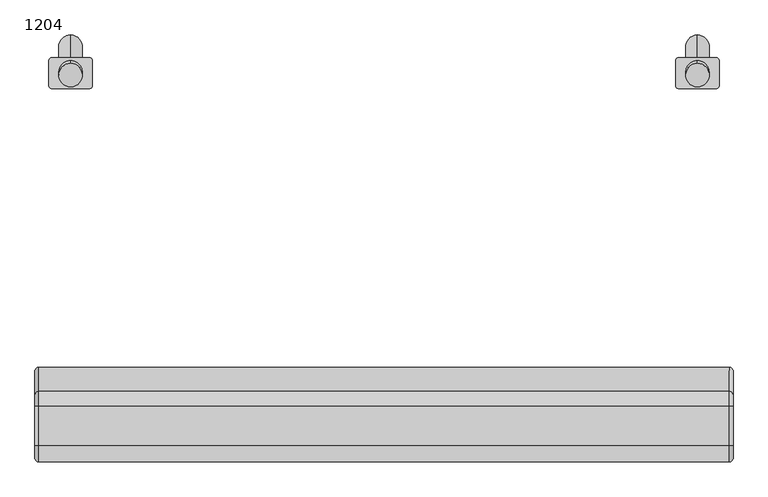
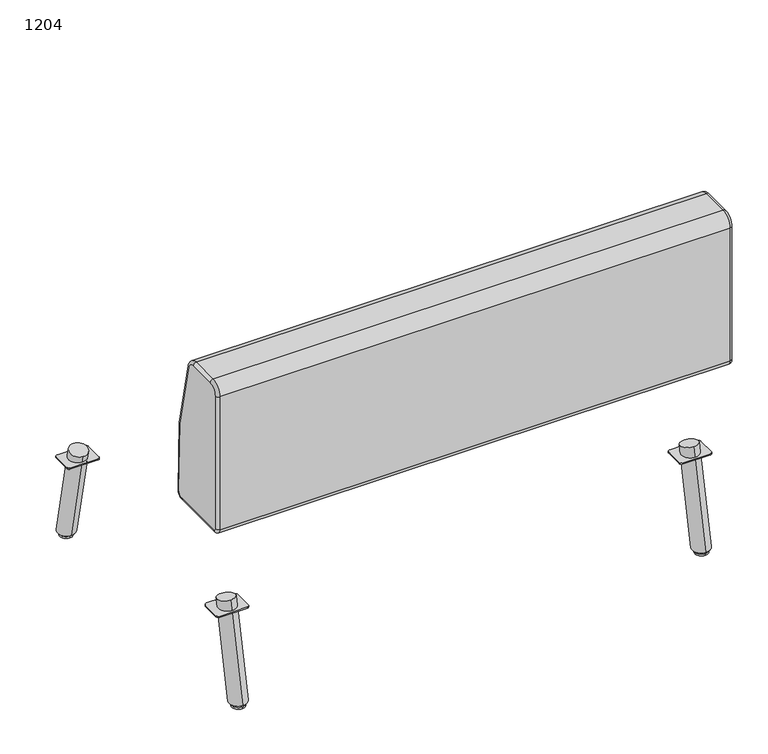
"""IFC4 building model written with IfcOpenShell, lengths in millimetres: furniture geometry, Laguna-Modular-Straight-ERG : 1204."""

from ifc_helpers import new_model, si_unit, point, frame, frame_2d, origin, place, context, project, spatial, polyline, circle_curve, ellipse_curve, trimmed, segment, composite_curve, outline, extrude, source, transform, mapped, element, save
from ifc_brep_helpers import plane_surface, cylinder_surface, revolved_surface, advanced_brep


def furniture_1204_0de081f7(model_context):
    return source(origin(), model_context, "Body", "SolidModel", [
        advanced_brep(
        [(-3602.2921763, -1186.8836653, 224.8295715), (-3602.2921763, -1149.6162417, 216.9081361), (-3602.2921763, -1232.5130913, 10.16), (-3602.2921763, -1193.5619147, 10.16)],
        [
            (0, 1, circle_curve(frame((-3602.2921763, -1168.2499535, 220.8688538), z_axis=(0.0, 0.20791169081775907, 0.9781476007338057), x_axis=(0.0, 0.9781476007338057, -0.20791169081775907)), 19.05)),
            (1, 0, circle_curve(frame((-3602.2921763, -1168.2499535, 220.8688538), z_axis=(0.0, 0.20791169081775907, 0.9781476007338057), x_axis=(0.0, 0.9781476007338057, -0.20791169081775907)), 19.05)),
            (0, 2),
            (2, 3, ellipse_curve(frame((-3602.2921763, -1213.037503, 10.16), z_axis=(0.0, 0.0, 1.0), x_axis=(0.0, 1.0, 0.0)), 19.4755883, 19.05)),
            (3, 1),
            (3, 2, ellipse_curve(frame((-3602.2921763, -1213.037503, 10.16), z_axis=(0.0, 0.0, 1.0), x_axis=(0.0, 1.0, 0.0)), 19.4755883, 19.05)),
        ],
        [
            plane_surface(frame((-3602.2921763, -1168.2499535, 220.8688538), z_axis=(0.0, 0.20791169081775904, 0.9781476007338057), x_axis=(1.0, 0.0, 0.0))),
            cylinder_surface(frame((-3602.2921763, -1168.2499535, 220.8688538), z_axis=(0.0, 0.20791169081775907, 0.9781476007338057), x_axis=(0.0, 0.9781476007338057, -0.20791169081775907)), 19.05),
            plane_surface(frame((-3633.679084, -1280.9022773, 10.16), z_axis=(0.0, 0.0, -1.0), x_axis=(1.0, 0.0, 0.0))),
        ],
        [
            (0, [[1, 2]]),
            (1, [[-1, 3, 4, 5]]),
            (1, [[-2, -5, 6, -3]]),
            (2, [[-4, -6]]),
        ],
    ),
        advanced_brep(
        [(-4605.5924306, -1186.8836653, 224.8295715), (-4605.5924306, -1149.6162417, 216.9081361), (-4605.5924306, -1232.5130913, 10.16), (-4605.5924306, -1193.5619147, 10.16)],
        [
            (0, 1, circle_curve(frame((-4605.5924306, -1168.2499535, 220.8688538), z_axis=(0.0, 0.20791169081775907, 0.9781476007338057), x_axis=(0.0, 0.9781476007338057, -0.20791169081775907)), 19.05)),
            (1, 0, circle_curve(frame((-4605.5924306, -1168.2499535, 220.8688538), z_axis=(0.0, 0.20791169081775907, 0.9781476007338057), x_axis=(0.0, 0.9781476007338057, -0.20791169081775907)), 19.05)),
            (0, 2),
            (2, 3, ellipse_curve(frame((-4605.5924306, -1213.037503, 10.16), z_axis=(0.0, 0.0, 1.0), x_axis=(0.0, 1.0, 0.0)), 19.4755883, 19.05)),
            (3, 1),
            (3, 2, ellipse_curve(frame((-4605.5924306, -1213.037503, 10.16), z_axis=(0.0, 0.0, 1.0), x_axis=(0.0, 1.0, 0.0)), 19.4755883, 19.05)),
        ],
        [
            plane_surface(frame((-4605.5924306, -1168.2499535, 220.8688538), z_axis=(0.0, 0.20791169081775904, 0.9781476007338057), x_axis=(1.0, 0.0, 0.0))),
            cylinder_surface(frame((-4605.5924306, -1168.2499535, 220.8688538), z_axis=(0.0, 0.20791169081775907, 0.9781476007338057), x_axis=(0.0, 0.9781476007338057, -0.20791169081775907)), 19.05),
            plane_surface(frame((-4636.9793383, -1280.9022773, 10.16), z_axis=(0.0, 0.0, -1.0), x_axis=(1.0, 0.0, 0.0))),
        ],
        [
            (0, [[1, 2]]),
            (1, [[-1, 3, 4, 5]]),
            (1, [[-2, -5, 6, -3]]),
            (2, [[-4, -6]]),
        ],
    ),
        advanced_brep(
        [(-3602.2921763, -595.628035, 224.8295715), (-3602.2921763, -632.8954586, 216.9081361), (-3602.2921763, -588.9497857, 10.16), (-3602.2921763, -549.998609, 10.16)],
        [
            (0, 1, circle_curve(frame((-3602.2921763, -614.2617468, 220.8688538), z_axis=(0.0, -0.20791169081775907, 0.9781476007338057), x_axis=(0.0, -0.9781476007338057, -0.20791169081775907)), 19.05)),
            (1, 0, circle_curve(frame((-3602.2921763, -614.2617468, 220.8688538), z_axis=(0.0, -0.20791169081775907, 0.9781476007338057), x_axis=(0.0, -0.9781476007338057, -0.20791169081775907)), 19.05)),
            (1, 2),
            (2, 3, ellipse_curve(frame((-3602.2921763, -569.4741973, 10.16), z_axis=(0.0, 0.0, 1.0), x_axis=(0.0, -1.0, 0.0)), 19.4755883, 19.05)),
            (3, 0),
            (3, 2, ellipse_curve(frame((-3602.2921763, -569.4741973, 10.16), z_axis=(0.0, 0.0, 1.0), x_axis=(0.0, -1.0, 0.0)), 19.4755883, 19.05)),
        ],
        [
            plane_surface(frame((-3602.2921763, -614.2617468, 220.8688538), z_axis=(0.0, -0.20791169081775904, 0.9781476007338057), x_axis=(1.0, 0.0, 0.0))),
            cylinder_surface(frame((-3602.2921763, -614.2617468, 220.8688538), z_axis=(0.0, -0.20791169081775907, 0.9781476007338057), x_axis=(0.0, -0.9781476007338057, -0.20791169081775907)), 19.05),
            plane_surface(frame((-3633.679084, -501.6094231, 10.16), z_axis=(0.0, 0.0, -1.0), x_axis=(1.0, 0.0, 0.0))),
        ],
        [
            (0, [[1, 2]]),
            (1, [[3, 4, 5, -2]]),
            (1, [[-5, 6, -3, -1]]),
            (2, [[-6, -4]]),
        ],
    ),
        advanced_brep(
        [(-4605.5924306, -595.628035, 224.8295715), (-4605.5924306, -632.8954586, 216.9081361), (-4605.5924306, -588.9497857, 10.16), (-4605.5924306, -549.998609, 10.16)],
        [
            (0, 1, circle_curve(frame((-4605.5924306, -614.2617468, 220.8688538), z_axis=(0.0, -0.20791169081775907, 0.9781476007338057), x_axis=(0.0, -0.9781476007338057, -0.20791169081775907)), 19.05)),
            (1, 0, circle_curve(frame((-4605.5924306, -614.2617468, 220.8688538), z_axis=(0.0, -0.20791169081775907, 0.9781476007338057), x_axis=(0.0, -0.9781476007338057, -0.20791169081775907)), 19.05)),
            (1, 2),
            (2, 3, ellipse_curve(frame((-4605.5924306, -569.4741973, 10.16), z_axis=(0.0, 0.0, 1.0), x_axis=(0.0, -1.0, 0.0)), 19.4755883, 19.05)),
            (3, 0),
            (3, 2, ellipse_curve(frame((-4605.5924306, -569.4741973, 10.16), z_axis=(0.0, 0.0, 1.0), x_axis=(0.0, -1.0, 0.0)), 19.4755883, 19.05)),
        ],
        [
            plane_surface(frame((-4605.5924306, -614.2617468, 220.8688538), z_axis=(0.0, -0.20791169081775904, 0.9781476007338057), x_axis=(1.0, 0.0, 0.0))),
            cylinder_surface(frame((-4605.5924306, -614.2617468, 220.8688538), z_axis=(0.0, -0.20791169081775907, 0.9781476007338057), x_axis=(0.0, -0.9781476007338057, -0.20791169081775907)), 19.05),
            plane_surface(frame((-4636.9793383, -501.6094231, 10.16), z_axis=(0.0, 0.0, -1.0), x_axis=(1.0, 0.0, 0.0))),
        ],
        [
            (0, [[1, 2]]),
            (1, [[3, 4, 5, -2]]),
            (1, [[-5, 6, -3, -1]]),
            (2, [[-6, -4]]),
        ],
    ),
        extrude(outline(composite_curve([segment(trimmed(circle_curve(frame_2d((-4575.7474306, -591.5358502)), 5.08), [point((-4575.7474306, -586.4558502))], [point((-4570.6674306, -591.5358502))], False, "CARTESIAN"), True, "CONTINUOUS"), segment(polyline([(-4570.6674306, -591.5358502), (-4570.6674306, -630.9058502)]), True, "CONTINUOUS"), segment(trimmed(circle_curve(frame_2d((-4575.7474306, -630.9058502)), 5.08), [point((-4570.6674306, -630.9058502))], [point((-4575.7474306, -635.9858502))], False, "CARTESIAN"), True, "CONTINUOUS"), segment(polyline([(-4575.7474306, -635.9858502), (-4635.4374306, -635.9858502)]), True, "CONTINUOUS"), segment(trimmed(circle_curve(frame_2d((-4635.4374306, -630.9058502)), 5.08), [point((-4635.4374306, -635.9858502))], [point((-4640.5174306, -630.9058502))], False, "CARTESIAN"), True, "CONTINUOUS"), segment(polyline([(-4640.5174306, -630.9058502), (-4640.5174306, -591.5358502)]), True, "CONTINUOUS"), segment(trimmed(circle_curve(frame_2d((-4635.4374306, -591.5358502)), 5.08), [point((-4640.5174306, -591.5358502))], [point((-4635.4374306, -586.4558502))], False, "CARTESIAN"), True, "CONTINUOUS"), segment(polyline([(-4635.4374306, -586.4558502), (-4575.7474306, -586.4558502)]), True, "CONTINUOUS")], self_intersect=False)), frame((0.0, 0.0, 200.66), z_axis=(0.0, 0.0, 1.0), x_axis=(1.0, 0.0, 0.0)), (0.0, 0.0, 1.0), 2.54),
        extrude(outline(composite_curve([segment(polyline([(-4575.7474306, -1196.0558502), (-4635.4374306, -1196.0558502)]), True, "CONTINUOUS"), segment(trimmed(circle_curve(frame_2d((-4635.4374306, -1190.9758502)), 5.08), [point((-4635.4374306, -1196.0558502))], [point((-4640.5174306, -1190.9758502))], False, "CARTESIAN"), True, "CONTINUOUS"), segment(polyline([(-4640.5174306, -1190.9758502), (-4640.5174306, -1151.6058502)]), True, "CONTINUOUS"), segment(trimmed(circle_curve(frame_2d((-4635.4374306, -1151.6058502)), 5.08), [point((-4640.5174306, -1151.6058502))], [point((-4635.4374306, -1146.5258502))], False, "CARTESIAN"), True, "CONTINUOUS"), segment(polyline([(-4635.4374306, -1146.5258502), (-4575.7474306, -1146.5258502)]), True, "CONTINUOUS"), segment(trimmed(circle_curve(frame_2d((-4575.7474306, -1151.6058502)), 5.08), [point((-4575.7474306, -1146.5258502))], [point((-4570.6674306, -1151.6058502))], False, "CARTESIAN"), True, "CONTINUOUS"), segment(polyline([(-4570.6674306, -1151.6058502), (-4570.6674306, -1190.9758502)]), True, "CONTINUOUS"), segment(trimmed(circle_curve(frame_2d((-4575.7474306, -1190.9758502)), 5.08), [point((-4570.6674306, -1190.9758502))], [point((-4575.7474306, -1196.0558502))], False, "CARTESIAN"), True, "CONTINUOUS")], self_intersect=False)), frame((0.0, 0.0, 200.66), z_axis=(0.0, 0.0, 1.0), x_axis=(1.0, 0.0, 0.0)), (0.0, 0.0, 1.0), 2.54),
        extrude(outline(composite_curve([segment(polyline([(-3632.136922, -586.4558502), (-3572.446922, -586.4558502)]), True, "CONTINUOUS"), segment(trimmed(circle_curve(frame_2d((-3572.446922, -591.5358502)), 5.08), [point((-3572.446922, -586.4558502))], [point((-3567.366922, -591.5358502))], False, "CARTESIAN"), True, "CONTINUOUS"), segment(polyline([(-3567.366922, -591.5358502), (-3567.366922, -630.9058502)]), True, "CONTINUOUS"), segment(trimmed(circle_curve(frame_2d((-3572.446922, -630.9058502)), 5.08), [point((-3567.366922, -630.9058502))], [point((-3572.446922, -635.9858502))], False, "CARTESIAN"), True, "CONTINUOUS"), segment(polyline([(-3572.446922, -635.9858502), (-3632.136922, -635.9858502)]), True, "CONTINUOUS"), segment(trimmed(circle_curve(frame_2d((-3632.136922, -630.9058502)), 5.08), [point((-3632.136922, -635.9858502))], [point((-3637.216922, -630.9058502))], False, "CARTESIAN"), True, "CONTINUOUS"), segment(polyline([(-3637.216922, -630.9058502), (-3637.216922, -591.5358502)]), True, "CONTINUOUS"), segment(trimmed(circle_curve(frame_2d((-3632.136922, -591.5358502)), 5.08), [point((-3637.216922, -591.5358502))], [point((-3632.136922, -586.4558502))], False, "CARTESIAN"), True, "CONTINUOUS")], self_intersect=False)), frame((0.0, 0.0, 200.66), z_axis=(0.0, 0.0, 1.0), x_axis=(1.0, 0.0, 0.0)), (0.0, 0.0, 1.0), 2.54),
        extrude(outline(composite_curve([segment(trimmed(circle_curve(frame_2d((-3632.136922, -1190.9758502)), 5.08), [point((-3632.136922, -1196.0558502))], [point((-3637.216922, -1190.9758502))], False, "CARTESIAN"), True, "CONTINUOUS"), segment(polyline([(-3637.216922, -1190.9758502), (-3637.216922, -1151.6058502)]), True, "CONTINUOUS"), segment(trimmed(circle_curve(frame_2d((-3632.136922, -1151.6058502)), 5.08), [point((-3637.216922, -1151.6058502))], [point((-3632.136922, -1146.5258502))], False, "CARTESIAN"), True, "CONTINUOUS"), segment(polyline([(-3632.136922, -1146.5258502), (-3572.446922, -1146.5258502)]), True, "CONTINUOUS"), segment(trimmed(circle_curve(frame_2d((-3572.446922, -1151.6058502)), 5.08), [point((-3572.446922, -1146.5258502))], [point((-3567.366922, -1151.6058502))], False, "CARTESIAN"), True, "CONTINUOUS"), segment(polyline([(-3567.366922, -1151.6058502), (-3567.366922, -1190.9758502)]), True, "CONTINUOUS"), segment(trimmed(circle_curve(frame_2d((-3572.446922, -1190.9758502)), 5.08), [point((-3567.366922, -1190.9758502))], [point((-3572.446922, -1196.0558502))], False, "CARTESIAN"), True, "CONTINUOUS"), segment(polyline([(-3572.446922, -1196.0558502), (-3632.136922, -1196.0558502)]), True, "CONTINUOUS")], self_intersect=False)), frame((0.0, 0.0, 200.66), z_axis=(0.0, 0.0, 1.0), x_axis=(1.0, 0.0, 0.0)), (0.0, 0.0, 1.0), 2.54),
        advanced_brep(
        [(-3602.2921763, -1218.5428448, 10.16), (-3602.2921763, -1214.2997967, 10.16), (-3602.2921763, -1210.0567485, 10.16), (-3602.2921763, -1214.2997967, 0.0), (-3602.2921763, -1228.3781501, 0.0), (-3602.2921763, -1200.2214432, 0.0), (-3602.2921763, -1228.3781501, 3.9615026), (-3602.2921763, -1200.2214432, 3.9615026), (-3602.2921763, -1218.5428448, 3.9615026), (-3602.2921763, -1210.0567485, 3.9615026)],
        [
            (0, 1),
            (1, 2),
            (2, 0, circle_curve(frame((-3602.2921763, -1214.2997967, 10.16), z_axis=(0.0, 0.0, 1.0), x_axis=(0.0, 1.0, 0.0)), 4.2430482)),
            (0, 2, circle_curve(frame((-3602.2921763, -1214.2997967, 10.16), z_axis=(0.0, 0.0, 1.0), x_axis=(0.0, 1.0, 0.0)), 4.2430482)),
            (3, 4),
            (4, 5, circle_curve(frame((-3602.2921763, -1214.2997967, 0.0), z_axis=(0.0, 0.0, -1.0), x_axis=(0.0, 1.0, 0.0)), 14.0783534)),
            (5, 3),
            (5, 4, circle_curve(frame((-3602.2921763, -1214.2997967, 0.0), z_axis=(0.0, 0.0, -1.0), x_axis=(0.0, 1.0, 0.0)), 14.0783534)),
            (4, 6),
            (6, 7, circle_curve(frame((-3602.2921763, -1214.2997967, 3.9615026), z_axis=(0.0, 0.0, -1.0), x_axis=(0.0, 1.0, 0.0)), 14.0783534)),
            (7, 5),
            (7, 6, circle_curve(frame((-3602.2921763, -1214.2997967, 3.9615026), z_axis=(0.0, 0.0, -1.0), x_axis=(0.0, 1.0, 0.0)), 14.0783534)),
            (6, 8),
            (8, 9, circle_curve(frame((-3602.2921763, -1214.2997967, 3.9615026), z_axis=(0.0, 0.0, -1.0), x_axis=(0.0, 1.0, 0.0)), 4.2430482)),
            (9, 7),
            (9, 8, circle_curve(frame((-3602.2921763, -1214.2997967, 3.9615026), z_axis=(0.0, 0.0, -1.0), x_axis=(0.0, 1.0, 0.0)), 4.2430482)),
            (8, 0),
            (2, 9),
        ],
        [
            plane_surface(frame((-3602.2921763, -1214.2997967, 10.16), z_axis=(0.0, 0.0, 1.0), x_axis=(0.0, 1.0, 0.0))),
            plane_surface(frame((-3602.2921763, -1214.2997967, 0.0), z_axis=(0.0, 0.0, -1.0), x_axis=(0.0, 1.0, 0.0))),
            cylinder_surface(frame((-3602.2921763, -1214.2997967, 10.16), z_axis=(0.0, 0.0, -1.0), x_axis=(0.0, 1.0, 0.0)), 14.0783534),
            plane_surface(frame((-3602.2921763, -1214.2997967, 3.9615026), z_axis=(0.0, 0.0, 1.0), x_axis=(0.0, 1.0, 0.0))),
            cylinder_surface(frame((-3602.2921763, -1214.2997967, 10.16), z_axis=(0.0, 0.0, -1.0), x_axis=(0.0, 1.0, 0.0)), 4.2430482),
        ],
        [
            (0, [[1, 2, 3]]),
            (0, [[-2, -1, 4]]),
            (1, [[5, 6, 7]]),
            (1, [[-7, 8, -5]]),
            (2, [[9, 10, 11, -6]]),
            (2, [[-11, 12, -9, -8]]),
            (3, [[13, 14, 15, -10]]),
            (3, [[-15, 16, -13, -12]]),
            (4, [[17, -3, 18, -14]]),
            (4, [[-18, -4, -17, -16]]),
        ],
    ),
        advanced_brep(
        [(-4605.5924306, -1218.5428448, 10.16), (-4605.5924306, -1214.2997967, 10.16), (-4605.5924306, -1210.0567485, 10.16), (-4605.5924306, -1214.2997967, 0.0), (-4605.5924306, -1228.3781501, 0.0), (-4605.5924306, -1200.2214432, 0.0), (-4605.5924306, -1228.3781501, 3.9615026), (-4605.5924306, -1200.2214432, 3.9615026), (-4605.5924306, -1218.5428448, 3.9615026), (-4605.5924306, -1210.0567485, 3.9615026)],
        [
            (0, 1),
            (1, 2),
            (2, 0, circle_curve(frame((-4605.5924306, -1214.2997967, 10.16), z_axis=(0.0, 0.0, 1.0), x_axis=(0.0, 1.0, 0.0)), 4.2430482)),
            (0, 2, circle_curve(frame((-4605.5924306, -1214.2997967, 10.16), z_axis=(0.0, 0.0, 1.0), x_axis=(0.0, 1.0, 0.0)), 4.2430482)),
            (3, 4),
            (4, 5, circle_curve(frame((-4605.5924306, -1214.2997967, 0.0), z_axis=(0.0, 0.0, -1.0), x_axis=(0.0, 1.0, 0.0)), 14.0783534)),
            (5, 3),
            (5, 4, circle_curve(frame((-4605.5924306, -1214.2997967, 0.0), z_axis=(0.0, 0.0, -1.0), x_axis=(0.0, 1.0, 0.0)), 14.0783534)),
            (4, 6),
            (6, 7, circle_curve(frame((-4605.5924306, -1214.2997967, 3.9615026), z_axis=(0.0, 0.0, -1.0), x_axis=(0.0, 1.0, 0.0)), 14.0783534)),
            (7, 5),
            (7, 6, circle_curve(frame((-4605.5924306, -1214.2997967, 3.9615026), z_axis=(0.0, 0.0, -1.0), x_axis=(0.0, 1.0, 0.0)), 14.0783534)),
            (6, 8),
            (8, 9, circle_curve(frame((-4605.5924306, -1214.2997967, 3.9615026), z_axis=(0.0, 0.0, -1.0), x_axis=(0.0, 1.0, 0.0)), 4.2430482)),
            (9, 7),
            (9, 8, circle_curve(frame((-4605.5924306, -1214.2997967, 3.9615026), z_axis=(0.0, 0.0, -1.0), x_axis=(0.0, 1.0, 0.0)), 4.2430482)),
            (8, 0),
            (2, 9),
        ],
        [
            plane_surface(frame((-4605.5924306, -1214.2997967, 10.16), z_axis=(0.0, 0.0, 1.0), x_axis=(0.0, 1.0, 0.0))),
            plane_surface(frame((-4605.5924306, -1214.2997967, 0.0), z_axis=(0.0, 0.0, -1.0), x_axis=(0.0, 1.0, 0.0))),
            cylinder_surface(frame((-4605.5924306, -1214.2997967, 10.16), z_axis=(0.0, 0.0, -1.0), x_axis=(0.0, 1.0, 0.0)), 14.0783534),
            plane_surface(frame((-4605.5924306, -1214.2997967, 3.9615026), z_axis=(0.0, 0.0, 1.0), x_axis=(0.0, 1.0, 0.0))),
            cylinder_surface(frame((-4605.5924306, -1214.2997967, 10.16), z_axis=(0.0, 0.0, -1.0), x_axis=(0.0, 1.0, 0.0)), 4.2430482),
        ],
        [
            (0, [[1, 2, 3]]),
            (0, [[-2, -1, 4]]),
            (1, [[5, 6, 7]]),
            (1, [[-7, 8, -5]]),
            (2, [[9, 10, 11, -6]]),
            (2, [[-11, 12, -9, -8]]),
            (3, [[13, 14, 15, -10]]),
            (3, [[-15, 16, -13, -12]]),
            (4, [[17, -3, 18, -14]]),
            (4, [[-18, -4, -17, -16]]),
        ],
    ),
        advanced_brep(
        [(-3602.2921763, -568.2119037, 10.16), (-3602.2921763, -563.9688555, 10.16), (-3602.2921763, -572.4549518, 10.16), (-3602.2921763, -554.1335502, 0.0), (-3602.2921763, -568.2119037, 0.0), (-3602.2921763, -582.2902571, 0.0), (-3602.2921763, -554.1335502, 3.9615026), (-3602.2921763, -582.2902571, 3.9615026), (-3602.2921763, -563.9688555, 3.9615026), (-3602.2921763, -572.4549518, 3.9615026)],
        [
            (0, 1),
            (1, 2, circle_curve(frame((-3602.2921763, -568.2119037, 10.16), z_axis=(0.0, 0.0, 1.0), x_axis=(0.0, -1.0, 0.0)), 4.2430482)),
            (2, 0),
            (2, 1, circle_curve(frame((-3602.2921763, -568.2119037, 10.16), z_axis=(0.0, 0.0, 1.0), x_axis=(0.0, -1.0, 0.0)), 4.2430482)),
            (3, 4),
            (4, 5),
            (5, 3, circle_curve(frame((-3602.2921763, -568.2119037, 0.0), z_axis=(0.0, 0.0, -1.0), x_axis=(0.0, -1.0, 0.0)), 14.0783534)),
            (3, 5, circle_curve(frame((-3602.2921763, -568.2119037, 0.0), z_axis=(0.0, 0.0, -1.0), x_axis=(0.0, -1.0, 0.0)), 14.0783534)),
            (6, 3),
            (5, 7),
            (7, 6, circle_curve(frame((-3602.2921763, -568.2119037, 3.9615026), z_axis=(0.0, 0.0, -1.0), x_axis=(0.0, -1.0, 0.0)), 14.0783534)),
            (6, 7, circle_curve(frame((-3602.2921763, -568.2119037, 3.9615026), z_axis=(0.0, 0.0, -1.0), x_axis=(0.0, -1.0, 0.0)), 14.0783534)),
            (8, 6),
            (7, 9),
            (9, 8, circle_curve(frame((-3602.2921763, -568.2119037, 3.9615026), z_axis=(0.0, 0.0, -1.0), x_axis=(0.0, -1.0, 0.0)), 4.2430482)),
            (8, 9, circle_curve(frame((-3602.2921763, -568.2119037, 3.9615026), z_axis=(0.0, 0.0, -1.0), x_axis=(0.0, -1.0, 0.0)), 4.2430482)),
            (1, 8),
            (9, 2),
        ],
        [
            plane_surface(frame((-3602.2921763, -568.2119037, 10.16), z_axis=(0.0, 0.0, 1.0), x_axis=(0.0, -1.0, 0.0))),
            plane_surface(frame((-3602.2921763, -568.2119037, 0.0), z_axis=(0.0, 0.0, -1.0), x_axis=(0.0, -1.0, 0.0))),
            cylinder_surface(frame((-3602.2921763, -568.2119037, 10.16), z_axis=(0.0, 0.0, 1.0), x_axis=(0.0, -1.0, 0.0)), 14.0783534),
            plane_surface(frame((-3602.2921763, -568.2119037, 3.9615026), z_axis=(0.0, 0.0, 1.0), x_axis=(0.0, -1.0, 0.0))),
            cylinder_surface(frame((-3602.2921763, -568.2119037, 10.16), z_axis=(0.0, 0.0, 1.0), x_axis=(0.0, -1.0, 0.0)), 4.2430482),
        ],
        [
            (0, [[1, 2, 3]]),
            (0, [[-3, 4, -1]]),
            (1, [[5, 6, 7]]),
            (1, [[-6, -5, 8]]),
            (2, [[9, -7, 10, 11]]),
            (2, [[-10, -8, -9, 12]]),
            (3, [[13, -11, 14, 15]]),
            (3, [[-14, -12, -13, 16]]),
            (4, [[17, -15, 18, -2]]),
            (4, [[-18, -16, -17, -4]]),
        ],
    ),
        advanced_brep(
        [(-4605.5924306, -568.2119037, 10.16), (-4605.5924306, -563.9688555, 10.16), (-4605.5924306, -572.4549518, 10.16), (-4605.5924306, -554.1335502, 0.0), (-4605.5924306, -568.2119037, 0.0), (-4605.5924306, -582.2902571, 0.0), (-4605.5924306, -554.1335502, 3.9615026), (-4605.5924306, -582.2902571, 3.9615026), (-4605.5924306, -563.9688555, 3.9615026), (-4605.5924306, -572.4549518, 3.9615026)],
        [
            (0, 1),
            (1, 2, circle_curve(frame((-4605.5924306, -568.2119037, 10.16), z_axis=(0.0, 0.0, 1.0), x_axis=(0.0, -1.0, 0.0)), 4.2430482)),
            (2, 0),
            (2, 1, circle_curve(frame((-4605.5924306, -568.2119037, 10.16), z_axis=(0.0, 0.0, 1.0), x_axis=(0.0, -1.0, 0.0)), 4.2430482)),
            (3, 4),
            (4, 5),
            (5, 3, circle_curve(frame((-4605.5924306, -568.2119037, 0.0), z_axis=(0.0, 0.0, -1.0), x_axis=(0.0, -1.0, 0.0)), 14.0783534)),
            (3, 5, circle_curve(frame((-4605.5924306, -568.2119037, 0.0), z_axis=(0.0, 0.0, -1.0), x_axis=(0.0, -1.0, 0.0)), 14.0783534)),
            (6, 3),
            (5, 7),
            (7, 6, circle_curve(frame((-4605.5924306, -568.2119037, 3.9615026), z_axis=(0.0, 0.0, -1.0), x_axis=(0.0, -1.0, 0.0)), 14.0783534)),
            (6, 7, circle_curve(frame((-4605.5924306, -568.2119037, 3.9615026), z_axis=(0.0, 0.0, -1.0), x_axis=(0.0, -1.0, 0.0)), 14.0783534)),
            (8, 6),
            (7, 9),
            (9, 8, circle_curve(frame((-4605.5924306, -568.2119037, 3.9615026), z_axis=(0.0, 0.0, -1.0), x_axis=(0.0, -1.0, 0.0)), 4.2430482)),
            (8, 9, circle_curve(frame((-4605.5924306, -568.2119037, 3.9615026), z_axis=(0.0, 0.0, -1.0), x_axis=(0.0, -1.0, 0.0)), 4.2430482)),
            (1, 8),
            (9, 2),
        ],
        [
            plane_surface(frame((-4605.5924306, -568.2119037, 10.16), z_axis=(0.0, 0.0, 1.0), x_axis=(0.0, -1.0, 0.0))),
            plane_surface(frame((-4605.5924306, -568.2119037, 0.0), z_axis=(0.0, 0.0, -1.0), x_axis=(0.0, -1.0, 0.0))),
            cylinder_surface(frame((-4605.5924306, -568.2119037, 10.16), z_axis=(0.0, 0.0, 1.0), x_axis=(0.0, -1.0, 0.0)), 14.0783534),
            plane_surface(frame((-4605.5924306, -568.2119037, 3.9615026), z_axis=(0.0, 0.0, 1.0), x_axis=(0.0, -1.0, 0.0))),
            cylinder_surface(frame((-4605.5924306, -568.2119037, 10.16), z_axis=(0.0, 0.0, 1.0), x_axis=(0.0, -1.0, 0.0)), 4.2430482),
        ],
        [
            (0, [[1, 2, 3]]),
            (0, [[-3, 4, -1]]),
            (1, [[5, 6, 7]]),
            (1, [[-6, -5, 8]]),
            (2, [[9, -7, 10, 11]]),
            (2, [[-10, -8, -9, 12]]),
            (3, [[13, -11, 14, 15]]),
            (3, [[-14, -12, -13, 16]]),
            (4, [[17, -15, 18, -2]]),
            (4, [[-18, -16, -17, -4]]),
        ],
    ),
        advanced_brep(
        [(-3545.1421763, -1221.4558502, 425.45), (-3545.1421763, -1227.8058502, 431.8), (-3551.4921763, -1234.1558502, 431.8), (-3551.4921763, -1221.4558502, 419.1), (-3545.1421763, -1227.8058502, 736.6), (-3551.4921763, -1234.1558502, 736.6), (-3545.1421763, -1208.7558502, 755.65), (-3551.4921763, -1208.7558502, 762.0), (-3545.1421763, -1145.484373, 755.65), (-3551.4921763, -1145.484373, 762.0), (-3545.1421763, -1127.3528197, 742.4437381), (-3551.4921763, -1121.3089686, 744.3916508), (-3545.1421763, -1088.8035624, 436.3225994), (-3551.4921763, -1082.4654689, 435.9339217), (-3545.1421763, -1100.3633388, 425.45), (-3551.4921763, -1100.3633388, 419.1), (-4656.3921763, -1100.3633388, 419.1), (-4656.3921763, -1082.4654689, 435.9339217), (-4656.3921763, -1221.4558502, 419.1), (-4656.3921763, -1234.1558502, 431.8), (-4656.3921763, -1234.1558502, 736.6), (-4656.3921763, -1208.7558502, 762.0), (-4656.3921763, -1145.484373, 762.0), (-4656.3921763, -1121.3089686, 744.3916508), (-4662.7421763, -1208.7558502, 755.65), (-4662.7421763, -1227.8058502, 736.6), (-4662.7421763, -1145.484373, 755.65), (-4662.7421763, -1127.3528197, 742.4437381), (-4662.7421763, -1088.8035624, 436.3225994), (-4662.7421763, -1100.3633388, 425.45), (-4662.7421763, -1221.4558502, 425.45), (-4662.7421763, -1227.8058502, 431.8)],
        [
            (0, 1, circle_curve(frame((-3545.1421763, -1221.4558502, 431.8), z_axis=(-1.0, 0.0, 0.0), x_axis=(0.0, 0.0, -1.0)), 6.35)),
            (1, 2, circle_curve(frame((-3551.4921763, -1227.8058502, 431.8), z_axis=(0.0, 0.0, -1.0), x_axis=(0.0, 1.0, 0.0)), 6.35)),
            (2, 3, circle_curve(frame((-3551.4921763, -1221.4558502, 431.8), z_axis=(1.0, 0.0, 0.0), x_axis=(0.0, 0.0, -1.0)), 12.7)),
            (3, 0, circle_curve(frame((-3551.4921763, -1221.4558502, 425.45), z_axis=(0.0, -1.0, 0.0), x_axis=(0.0, 0.0, 1.0)), 6.35)),
            (1, 4),
            (4, 5, circle_curve(frame((-3551.4921763, -1227.8058502, 736.6), z_axis=(0.0, 0.0, -1.0), x_axis=(0.0, 1.0, 0.0)), 6.35)),
            (5, 2),
            (4, 6, circle_curve(frame((-3545.1421763, -1208.7558502, 736.6), z_axis=(-1.0, 0.0, 0.0), x_axis=(0.0, -1.0, 0.0)), 19.05)),
            (6, 7, circle_curve(frame((-3551.4921763, -1208.7558502, 755.65), z_axis=(0.0, -1.0, 0.0), x_axis=(0.0, 0.0, -1.0)), 6.35)),
            (7, 5, circle_curve(frame((-3551.4921763, -1208.7558502, 736.6), z_axis=(1.0, 0.0, 0.0), x_axis=(0.0, -1.0, 0.0)), 25.4)),
            (6, 8),
            (8, 9, circle_curve(frame((-3551.4921763, -1145.484373, 755.65), z_axis=(0.0, -1.0, 0.0), x_axis=(0.0, 0.0, -1.0)), 6.35)),
            (9, 7),
            (8, 10, circle_curve(frame((-3545.1421763, -1145.484373, 736.6), z_axis=(-1.0, 0.0, 0.0), x_axis=(0.0, 0.0, 1.0)), 19.05)),
            (10, 11, circle_curve(frame((-3551.4921763, -1127.3528197, 742.4437381), z_axis=(0.0, -0.30675790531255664, 0.951787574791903), x_axis=(0.0, -0.951787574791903, -0.30675790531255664)), 6.35)),
            (11, 9, circle_curve(frame((-3551.4921763, -1145.484373, 736.6), z_axis=(1.0, 0.0, 0.0), x_axis=(0.0, 0.0, 1.0)), 25.4)),
            (10, 12, circle_curve(frame((-3545.1421763, -1919.1691857, 487.2440105), z_axis=(-1.0, 0.0, 0.0), x_axis=(0.0, 0.95178757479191, 0.30675790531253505)), 831.9255126)),
            (12, 13, circle_curve(frame((-3551.4921763, -1088.8035624, 436.3225994), z_axis=(0.0, 0.06120909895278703, 0.9981249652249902), x_axis=(0.0, -0.9981249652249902, 0.06120909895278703)), 6.35)),
            (13, 11, circle_curve(frame((-3551.4921763, -1919.1691857, 487.2440105), z_axis=(1.0, 0.0, 0.0), x_axis=(0.0, 0.95178757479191, 0.30675790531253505)), 838.2755126)),
            (12, 14, circle_curve(frame((-3545.1421763, -1100.3633388, 437.0314921), z_axis=(-1.0, 0.0, 0.0), x_axis=(0.0, 0.9981249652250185, -0.06120909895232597)), 11.5814921)),
            (14, 15, circle_curve(frame((-3551.4921763, -1100.3633388, 425.45), z_axis=(0.0, 0.9999999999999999, 0.0), x_axis=(0.0, 0.0, 0.9999999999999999)), 6.35)),
            (15, 13, circle_curve(frame((-3551.4921763, -1100.3633388, 437.0314921), z_axis=(1.0, 0.0, 0.0), x_axis=(0.0, 0.9981249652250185, -0.06120909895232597)), 17.9314921)),
            (3, 15),
            (14, 0),
            (15, 16),
            (16, 17, circle_curve(frame((-4656.3921763, -1100.3633388, 437.0314921), z_axis=(1.0, 0.0, 0.0), x_axis=(0.0, -1.0, 0.0)), 17.9314921)),
            (17, 13),
            (3, 18),
            (18, 16),
            (2, 19),
            (19, 18, circle_curve(frame((-4656.3921763, -1221.4558502, 431.8), z_axis=(1.0, 0.0, 0.0), x_axis=(0.0, -1.0, 0.0)), 12.7)),
            (5, 20),
            (20, 19),
            (7, 21),
            (21, 20, circle_curve(frame((-4656.3921763, -1208.7558502, 736.6), z_axis=(1.0, 0.0, 0.0), x_axis=(0.0, -1.0, 0.0)), 25.4)),
            (9, 22),
            (22, 21),
            (11, 23),
            (23, 22, circle_curve(frame((-4656.3921763, -1145.484373, 736.6), z_axis=(1.0, 0.0, 0.0), x_axis=(0.0, -1.0, 0.0)), 25.4)),
            (17, 23, circle_curve(frame((-4656.3921763, -1919.1691857, 487.2440105), z_axis=(1.0, 0.0, 0.0), x_axis=(0.0, -1.0, 0.0)), 838.2755126)),
            (21, 24, circle_curve(frame((-4656.3921763, -1208.7558502, 755.65), z_axis=(0.0, -1.0, 0.0), x_axis=(0.0, 0.0, -1.0)), 6.35)),
            (24, 25, circle_curve(frame((-4662.7421763, -1208.7558502, 736.6), z_axis=(1.0, 0.0, 0.0), x_axis=(0.0, -1.0, 0.0)), 19.05)),
            (25, 20, circle_curve(frame((-4656.3921763, -1227.8058502, 736.6), z_axis=(0.0, 0.0, 1.0), x_axis=(0.0, 1.0, 0.0)), 6.35)),
            (22, 26, circle_curve(frame((-4656.3921763, -1145.484373, 755.65), z_axis=(0.0, -1.0, 0.0), x_axis=(0.0, 0.0, -1.0)), 6.35)),
            (26, 24),
            (23, 27, circle_curve(frame((-4656.3921763, -1127.3528197, 742.4437381), z_axis=(0.0, -0.30675790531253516, 0.9517875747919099), x_axis=(0.0, -0.9517875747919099, -0.30675790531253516)), 6.35)),
            (27, 26, circle_curve(frame((-4662.7421763, -1145.484373, 736.6), z_axis=(1.0, 0.0, 0.0), x_axis=(0.0, 0.0, 1.0)), 19.05)),
            (17, 28, circle_curve(frame((-4656.3921763, -1088.8035624, 436.3225994), z_axis=(0.0, 0.06120909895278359, 0.9981249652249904), x_axis=(0.0, -0.9981249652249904, 0.06120909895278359)), 6.35)),
            (28, 27, circle_curve(frame((-4662.7421763, -1919.1691857, 487.2440105), z_axis=(1.0, 0.0, 0.0), x_axis=(0.0, 0.95178757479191, 0.30675790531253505)), 831.9255126)),
            (16, 29, circle_curve(frame((-4656.3921763, -1100.3633388, 425.45), z_axis=(0.0, 1.0, 0.0), x_axis=(0.0, 0.0, 1.0)), 6.35)),
            (29, 28, circle_curve(frame((-4662.7421763, -1100.3633388, 437.0314921), z_axis=(1.0, 0.0, 0.0), x_axis=(0.0, 0.9981249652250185, -0.06120909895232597)), 11.5814921)),
            (18, 30, circle_curve(frame((-4656.3921763, -1221.4558502, 425.45), z_axis=(0.0, 1.0, 0.0), x_axis=(0.0, 0.0, 1.0)), 6.35)),
            (30, 29),
            (19, 31, circle_curve(frame((-4656.3921763, -1227.8058502, 431.8), z_axis=(0.0, 0.0, -1.0), x_axis=(0.0, 1.0, 0.0)), 6.35)),
            (31, 30, circle_curve(frame((-4662.7421763, -1221.4558502, 431.8), z_axis=(1.0, 0.0, 0.0), x_axis=(0.0, 0.0, -1.0)), 6.35)),
            (25, 31),
        ],
        [
            revolved_surface(trimmed(ellipse_curve(frame((-3551.4921763, -1221.4558502, 425.45), z_axis=(0.0, -1.0, 0.0), x_axis=(0.0, 0.0, 1.0)), 6.35, 6.35), [point((-3551.4921763, -1221.4558502, 419.1))], [point((-3545.1421763, -1221.4558502, 425.45))], True, "CARTESIAN"), (-3551.4921763, -1221.4558502, 431.8), (1.0, 0.0, 0.0)),
            cylinder_surface(frame((-3551.4921763, -1227.8058502, 431.8), z_axis=(0.0, 0.0, -1.0), x_axis=(0.0, 1.0, 0.0)), 6.35),
            revolved_surface(trimmed(ellipse_curve(frame((-3551.4921763, -1227.8058502, 736.6), z_axis=(0.0, 0.0, 1.0), x_axis=(0.0, 1.0, 0.0)), 6.35, 6.35), [point((-3551.4921763, -1234.1558502, 736.6))], [point((-3545.1421763, -1227.8058502, 736.6))], True, "CARTESIAN"), (-3551.4921763, -1208.7558502, 736.6), (1.0, 0.0, 0.0)),
            cylinder_surface(frame((-3551.4921763, -1208.7558502, 755.65), z_axis=(0.0, -1.0, 0.0), x_axis=(0.0, 0.0, -1.0)), 6.35),
            revolved_surface(trimmed(ellipse_curve(frame((-3551.4921763, -1145.484373, 755.65), z_axis=(0.0, 1.0, 0.0), x_axis=(0.0, 0.0, -1.0)), 6.35, 6.35), [point((-3551.4921763, -1145.484373, 762.0))], [point((-3545.1421763, -1145.484373, 755.65))], True, "CARTESIAN"), (-3551.4921763, -1145.484373, 736.6), (1.0, 0.0, 0.0)),
            revolved_surface(trimmed(ellipse_curve(frame((-3551.4921763, -1127.3528197, 742.4437381), z_axis=(0.0, 0.3067579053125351, -0.95178757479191), x_axis=(0.0, -0.95178757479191, -0.3067579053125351)), 6.35, 6.35), [point((-3551.4921763, -1121.3089686, 744.3916508))], [point((-3545.1421763, -1127.3528197, 742.4437381))], True, "CARTESIAN"), (-3551.4921763, -1919.1691857, 487.2440105), (1.0, 0.0, 0.0)),
            revolved_surface(trimmed(ellipse_curve(frame((-3551.4921763, -1088.8035624, 436.3225994), z_axis=(0.0, -0.06120909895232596, -0.9981249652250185), x_axis=(0.0, -0.9981249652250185, 0.06120909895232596)), 6.35, 6.35), [point((-3551.4921763, -1082.4654689, 435.9339217))], [point((-3545.1421763, -1088.8035624, 436.3225994))], True, "CARTESIAN"), (-3551.4921763, -1100.3633388, 437.0314921), (1.0, 0.0, 0.0)),
            cylinder_surface(frame((-3551.4921763, -1100.3633388, 425.45), z_axis=(0.0, 1.0, 0.0), x_axis=(0.0, 0.0, 1.0)), 6.35),
            plane_surface(frame((-3545.1421763, -1221.4558502, 425.45), z_axis=(1.0, 0.0, 0.0), x_axis=(0.0, -1.0, 0.0))),
            cylinder_surface(frame((-4656.3921763, -1100.3633388, 437.0314921), z_axis=(1.0, 0.0, 0.0), x_axis=(0.0, -1.0, 0.0)), 17.9314921),
            plane_surface(frame((-3551.4921763, -1100.3633388, 419.1), z_axis=(0.0, 0.0, -1.0), x_axis=(-1.0, 0.0, 0.0))),
            cylinder_surface(frame((-4656.3921763, -1221.4558502, 431.8), z_axis=(1.0, 0.0, 0.0), x_axis=(0.0, -1.0, 0.0)), 12.7),
            plane_surface(frame((-3551.4921763, -1234.1558502, 431.8), z_axis=(0.0, -1.0, 0.0), x_axis=(-1.0, 0.0, 0.0))),
            cylinder_surface(frame((-4656.3921763, -1208.7558502, 736.6), z_axis=(1.0, 0.0, 0.0), x_axis=(0.0, -1.0, 0.0)), 25.4),
            plane_surface(frame((-3551.4921763, -1208.7558502, 762.0), z_axis=(0.0, 0.0, 1.0), x_axis=(-1.0, 0.0, 0.0))),
            cylinder_surface(frame((-4656.3921763, -1145.484373, 736.6), z_axis=(1.0, 0.0, 0.0), x_axis=(0.0, -1.0, 0.0)), 25.4),
            cylinder_surface(frame((-4656.3921763, -1919.1691857, 487.2440105), z_axis=(1.0, 0.0, 0.0), x_axis=(0.0, -1.0, 0.0)), 838.2755126),
            revolved_surface(trimmed(ellipse_curve(frame((-4656.3921763, -1227.8058502, 736.6), z_axis=(0.0, 0.0, 1.0), x_axis=(0.0, 1.0, 0.0)), 6.35, 6.35), [point((-4662.7421763, -1227.8058502, 736.6))], [point((-4656.3921763, -1234.1558502, 736.6))], True, "CARTESIAN"), (-4656.3921763, -1208.7558502, 736.6), (1.0, 0.0, 0.0)),
            cylinder_surface(frame((-4656.3921763, -1208.7558502, 755.65), z_axis=(0.0, -1.0, 0.0), x_axis=(0.0, 0.0, -1.0)), 6.35),
            revolved_surface(trimmed(ellipse_curve(frame((-4656.3921763, -1145.484373, 755.65), z_axis=(0.0, 1.0, 0.0), x_axis=(0.0, 0.0, -1.0)), 6.35, 6.35), [point((-4662.7421763, -1145.484373, 755.65))], [point((-4656.3921763, -1145.484373, 762.0))], True, "CARTESIAN"), (-4656.3921763, -1145.484373, 736.6), (1.0, 0.0, 0.0)),
            revolved_surface(trimmed(ellipse_curve(frame((-4656.3921763, -1127.3528197, 742.4437381), z_axis=(0.0, 0.3067579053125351, -0.95178757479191), x_axis=(0.0, -0.95178757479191, -0.3067579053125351)), 6.35, 6.35), [point((-4662.7421763, -1127.3528197, 742.4437381))], [point((-4656.3921763, -1121.3089686, 744.3916508))], True, "CARTESIAN"), (-4656.3921763, -1919.1691857, 487.2440105), (1.0, 0.0, 0.0)),
            revolved_surface(trimmed(ellipse_curve(frame((-4656.3921763, -1088.8035624, 436.3225994), z_axis=(0.0, -0.061209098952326, -0.9981249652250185), x_axis=(0.0, -0.9981249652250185, 0.061209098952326)), 6.35, 6.35), [point((-4662.7421763, -1088.8035624, 436.3225994))], [point((-4656.3921763, -1082.4654689, 435.9339217))], True, "CARTESIAN"), (-4656.3921763, -1100.3633388, 437.0314921), (1.0, 0.0, 0.0)),
            cylinder_surface(frame((-4656.3921763, -1100.3633388, 425.45), z_axis=(0.0, 1.0, 0.0), x_axis=(0.0, 0.0, 1.0)), 6.35),
            revolved_surface(trimmed(ellipse_curve(frame((-4656.3921763, -1221.4558502, 425.45), z_axis=(0.0, -1.0, 0.0), x_axis=(0.0, 0.0, 1.0)), 6.35, 6.35), [point((-4662.7421763, -1221.4558502, 425.45))], [point((-4656.3921763, -1221.4558502, 419.1))], True, "CARTESIAN"), (-4656.3921763, -1221.4558502, 431.8), (1.0, 0.0, 0.0)),
            cylinder_surface(frame((-4656.3921763, -1227.8058502, 431.8), z_axis=(0.0, 0.0, -1.0), x_axis=(0.0, 1.0, 0.0)), 6.35),
            plane_surface(frame((-4662.7421763, -1227.8058502, 736.6), z_axis=(-1.0, 0.0, 0.0), x_axis=(0.0, 0.0, -1.0))),
        ],
        [
            (0, [[1, 2, 3, 4]]),
            (1, [[5, 6, 7, -2]]),
            (2, [[8, 9, 10, -6]]),
            (3, [[11, 12, 13, -9]]),
            (4, [[14, 15, 16, -12]]),
            (5, [[17, 18, 19, -15]]),
            (6, [[20, 21, 22, -18]]),
            (7, [[23, -21, 24, -4]]),
            (8, [[-24, -20, -17, -14, -11, -8, -5, -1]]),
            (9, [[-22, 25, 26, 27]]),
            (10, [[-23, 28, 29, -25]]),
            (11, [[-3, 30, 31, -28]]),
            (12, [[-7, 32, 33, -30]]),
            (13, [[-10, 34, 35, -32]]),
            (14, [[-13, 36, 37, -34]]),
            (15, [[-16, 38, 39, -36]]),
            (16, [[40, -38, -19, -27]]),
            (17, [[-35, 41, 42, 43]]),
            (18, [[-37, 44, 45, -41]]),
            (19, [[-39, 46, 47, -44]]),
            (20, [[-40, 48, 49, -46]]),
            (21, [[-26, 50, 51, -48]]),
            (22, [[-29, 52, 53, -50]]),
            (23, [[-31, 54, 55, -52]]),
            (24, [[56, -54, -33, -43]]),
            (25, [[-45, -47, -49, -51, -53, -55, -56, -42]]),
        ],
    ),
    ])


if __name__ == "__main__":
    model = new_model("IFC4")
    model_context = context("Model", 3, world=origin())
    ifc_project = project(units=[si_unit("LENGTHUNIT", "METRE", prefix="MILLI")], contexts=[model_context])
    site = spatial("IfcSite", under=ifc_project)
    building = spatial("IfcBuilding", under=site)
    placement = place(None, origin())
    furniture_1204_shape = furniture_1204_0de081f7(model_context)
    element("IfcFurniture", 1, ObjectType="Laguna-Modular-Straight-ERG : 1204", at=placement, inside=building, context=model_context, shape_type="MappedRepresentation", body=[
        mapped(furniture_1204_shape, transform((0.0, 0.0, 0.0), x_axis=(1.0, 0.0, 0.0), y_axis=(0.0, 1.0, 0.0), z_axis=(0.0, 0.0, 1.0))),
    ])
    save(model, "model.ifc")
